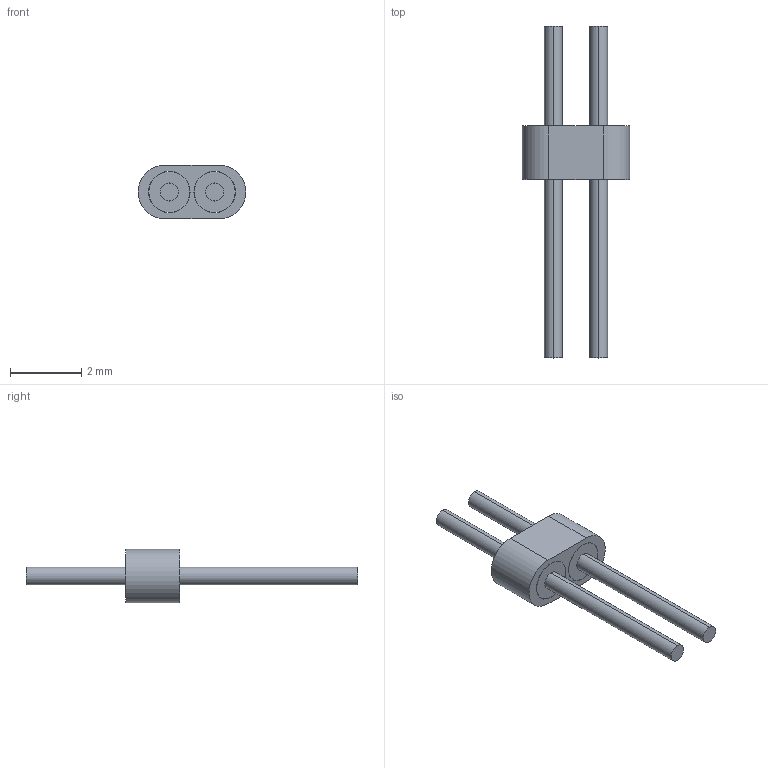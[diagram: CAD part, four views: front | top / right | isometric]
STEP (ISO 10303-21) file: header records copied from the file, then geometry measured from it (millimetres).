
FILE_DESCRIPTION (( 'STEP AP203' ), '1' );
FILE_NAME ('2о.STEP', '2023-11-09T01:36:27', ( 'China' ), ( 'Microsoft' ), 'SwSTEP 2.0', 'SolidWorks 2019', '' );
FILE_SCHEMA (( 'CONFIG_CONTROL_DESIGN' ));
Length unit declared in the file: millimetre
Products named in the file (1): 2о
Bounding box: 3.02 x 9.3 x 1.5 mm (x, y, z)
Volume: 9.1 mm3; surface area: 75.4 mm2
Topology: 5 solids, 5 shells, 30 faces, 60 edges, 40 vertices
Faces by surface type: cylinder 18, plane 12
Entity records: 885 total; most frequent: DIRECTION 158, CARTESIAN_POINT 131, ORIENTED_EDGE 120, AXIS2_PLACEMENT_3D 67, EDGE_CURVE 60, VERTEX_POINT 40, EDGE_LOOP 38, CIRCLE 36
